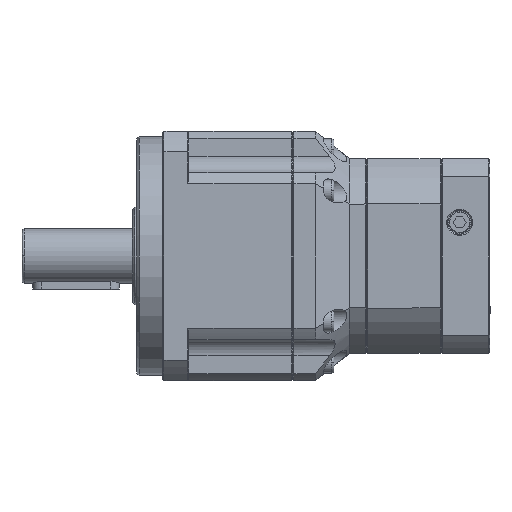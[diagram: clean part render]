
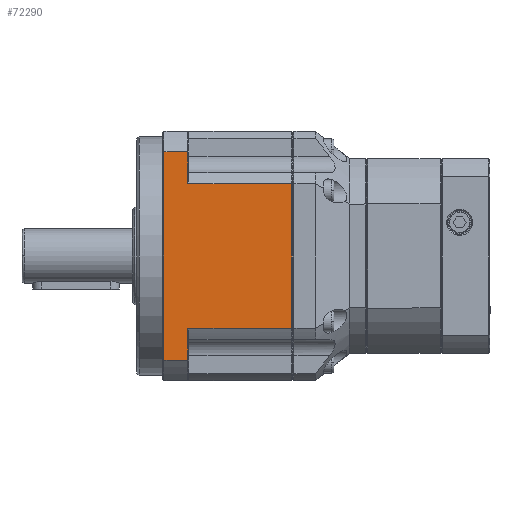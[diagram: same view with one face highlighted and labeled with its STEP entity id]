
A CAD part, left-side view. The second image highlights one B-rep face of the part: STEP entity #72290.
In plain terms, the highlighted planar face has unit normal (1, 0, 0).
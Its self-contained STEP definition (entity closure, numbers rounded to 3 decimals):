
#344 = CARTESIAN_POINT ( 'NONE',  ( -57.5, 19.389, -48.153 ) ) ;
#425 = CARTESIAN_POINT ( 'NONE',  ( -57.5, 24.889, 0. ) ) ;
#2356 = EDGE_CURVE ( 'NONE', #37100, #39793, #54988, .T. ) ;
#2786 = DIRECTION ( 'NONE',  ( 0., -1., 0. ) ) ;
#3325 = ORIENTED_EDGE ( 'NONE', *, *, #73358, .F. ) ;
#3566 = ORIENTED_EDGE ( 'NONE', *, *, #71013, .F. ) ;
#7157 = EDGE_LOOP ( 'NONE', ( #72665, #43454, #15209, #49975, #94303, #57334, #3325, #3566 ) ) ;
#8149 = DIRECTION ( 'NONE',  ( 0., 0., -1. ) ) ;
#14218 = CARTESIAN_POINT ( 'NONE',  ( -57.5, 13.889, 0. ) ) ;
#14888 = LINE ( 'NONE', #344, #50825 ) ;
#15124 = VECTOR ( 'NONE', #70155, 1000. ) ;
#15209 = ORIENTED_EDGE ( 'NONE', *, *, #66751, .F. ) ;
#15424 = PLANE ( 'NONE',  #50856 ) ;
#18560 = VERTEX_POINT ( 'NONE', #47167 ) ;
#20703 = DIRECTION ( 'NONE',  ( 0., 1., 0. ) ) ;
#21945 = DIRECTION ( 'NONE',  ( 0., 0., 1. ) ) ;
#23128 = DIRECTION ( 'NONE',  ( 0., 0., -1. ) ) ;
#24922 = LINE ( 'NONE', #94466, #27351 ) ;
#25443 = VERTEX_POINT ( 'NONE', #74440 ) ;
#27351 = VECTOR ( 'NONE', #2786, 1000. ) ;
#27949 = EDGE_CURVE ( 'NONE', #25443, #62739, #14888, .T. ) ;
#29399 = CARTESIAN_POINT ( 'NONE',  ( -57.5, -4.611, 48.153 ) ) ;
#34652 = VECTOR ( 'NONE', #63466, 1000. ) ;
#35534 = LINE ( 'NONE', #47072, #15124 ) ;
#36025 = VECTOR ( 'NONE', #85472, 1000. ) ;
#37100 = VERTEX_POINT ( 'NONE', #66775 ) ;
#37945 = CARTESIAN_POINT ( 'NONE',  ( -57.5, 13.889, 48.153 ) ) ;
#39758 = CARTESIAN_POINT ( 'NONE',  ( -57.5, -34.111, 0. ) ) ;
#39793 = VERTEX_POINT ( 'NONE', #90057 ) ;
#43454 = ORIENTED_EDGE ( 'NONE', *, *, #2356, .F. ) ;
#46918 = DIRECTION ( 'NONE',  ( 0., 1., 0. ) ) ;
#47072 = CARTESIAN_POINT ( 'NONE',  ( -57.5, 13.889, 0. ) ) ;
#47167 = CARTESIAN_POINT ( 'NONE',  ( -57.5, -34.111, -33.407 ) ) ;
#48009 = VECTOR ( 'NONE', #20703, 1000. ) ;
#49337 = LINE ( 'NONE', #14218, #67257 ) ;
#49975 = ORIENTED_EDGE ( 'NONE', *, *, #92046, .F. ) ;
#50825 = VECTOR ( 'NONE', #46918, 1000. ) ;
#50856 = AXIS2_PLACEMENT_3D ( 'NONE', #53615, #68964, #23128 ) ;
#53615 = CARTESIAN_POINT ( 'NONE',  ( -57.5, -34.111, 48.153 ) ) ;
#54988 = LINE ( 'NONE', #93832, #34652 ) ;
#57334 = ORIENTED_EDGE ( 'NONE', *, *, #27949, .T. ) ;
#58758 = LINE ( 'NONE', #39758, #36025 ) ;
#62739 = VERTEX_POINT ( 'NONE', #94103 ) ;
#63466 = DIRECTION ( 'NONE',  ( 0., 1., 0. ) ) ;
#63563 = LINE ( 'NONE', #29399, #48009 ) ;
#64629 = VERTEX_POINT ( 'NONE', #37945 ) ;
#66751 = EDGE_CURVE ( 'NONE', #18560, #37100, #58758, .T. ) ;
#66775 = CARTESIAN_POINT ( 'NONE',  ( -57.5, -34.111, 33.407 ) ) ;
#67257 = VECTOR ( 'NONE', #21945, 1000. ) ;
#68964 = DIRECTION ( 'NONE',  ( 1., 0., 0. ) ) ;
#69232 = EDGE_CURVE ( 'NONE', #25443, #96467, #35534, .T. ) ;
#70155 = DIRECTION ( 'NONE',  ( 0., 0., 1. ) ) ;
#71013 = EDGE_CURVE ( 'NONE', #64629, #98109, #63563, .T. ) ;
#71725 = FACE_OUTER_BOUND ( 'NONE', #7157, .T. ) ;
#72290 = ADVANCED_FACE ( 'NONE', ( #71725 ), #15424, .T. ) ;
#72665 = ORIENTED_EDGE ( 'NONE', *, *, #89250, .F. ) ;
#73358 = EDGE_CURVE ( 'NONE', #98109, #62739, #89448, .T. ) ;
#74440 = CARTESIAN_POINT ( 'NONE',  ( -57.5, 13.889, -48.153 ) ) ;
#82271 = VECTOR ( 'NONE', #8149, 1000. ) ;
#83831 = CARTESIAN_POINT ( 'NONE',  ( -57.5, 13.889, -33.407 ) ) ;
#85472 = DIRECTION ( 'NONE',  ( 0., 0., 1. ) ) ;
#86202 = CARTESIAN_POINT ( 'NONE',  ( -57.5, 24.889, 48.153 ) ) ;
#89250 = EDGE_CURVE ( 'NONE', #39793, #64629, #49337, .T. ) ;
#89448 = LINE ( 'NONE', #425, #82271 ) ;
#90057 = CARTESIAN_POINT ( 'NONE',  ( -57.5, 13.889, 33.407 ) ) ;
#92046 = EDGE_CURVE ( 'NONE', #96467, #18560, #24922, .T. ) ;
#93832 = CARTESIAN_POINT ( 'NONE',  ( -57.5, -4.611, 33.407 ) ) ;
#94103 = CARTESIAN_POINT ( 'NONE',  ( -57.5, 24.889, -48.153 ) ) ;
#94303 = ORIENTED_EDGE ( 'NONE', *, *, #69232, .F. ) ;
#94466 = CARTESIAN_POINT ( 'NONE',  ( -57.5, -4.611, -33.407 ) ) ;
#96467 = VERTEX_POINT ( 'NONE', #83831 ) ;
#98109 = VERTEX_POINT ( 'NONE', #86202 ) ;
